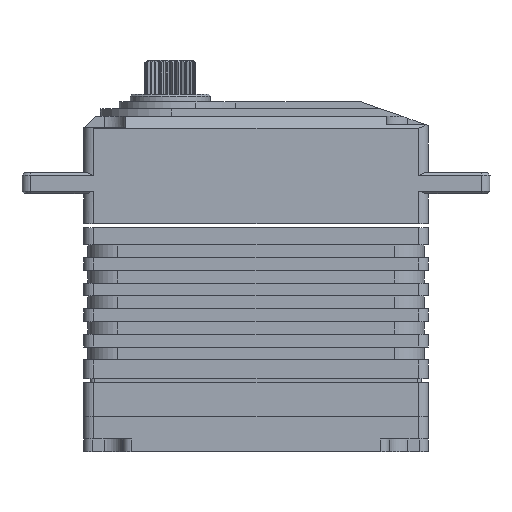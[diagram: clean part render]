
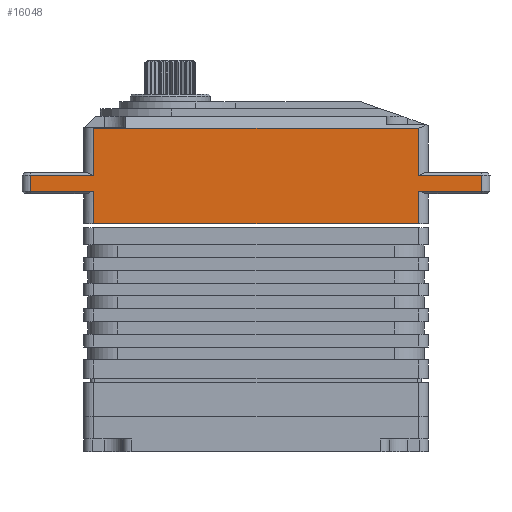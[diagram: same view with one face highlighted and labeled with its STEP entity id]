
A CAD part, front view. The second image highlights one B-rep face of the part: STEP entity #16048.
In plain terms, the highlighted planar face has unit normal (0, -1, 0).
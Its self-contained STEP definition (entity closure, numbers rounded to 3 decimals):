
#139 = CARTESIAN_POINT ( 'NONE',  ( -147.682, -9.427, 16.882 ) ) ;
#424 = EDGE_CURVE ( 'NONE', #5062, #21503, #14286, .T. ) ;
#830 = CARTESIAN_POINT ( 'NONE',  ( -147.682, -9.427, 14.982 ) ) ;
#1002 = EDGE_CURVE ( 'NONE', #6591, #12599, #20674, .T. ) ;
#1155 = VERTEX_POINT ( 'NONE', #7653 ) ;
#1386 = ORIENTED_EDGE ( 'NONE', *, *, #6347, .T. ) ;
#1500 = VECTOR ( 'NONE', #22816, 1000. ) ;
#1569 = CARTESIAN_POINT ( 'NONE',  ( -140.232, -9.427, 16.882 ) ) ;
#1731 = EDGE_CURVE ( 'NONE', #21138, #19691, #15468, .T. ) ;
#1857 = ORIENTED_EDGE ( 'NONE', *, *, #6783, .T. ) ;
#2400 = VECTOR ( 'NONE', #3767, 1000. ) ;
#2553 = ORIENTED_EDGE ( 'NONE', *, *, #424, .T. ) ;
#2581 = VECTOR ( 'NONE', #14908, 1000. ) ;
#2791 = CARTESIAN_POINT ( 'NONE',  ( -147.682, -9.427, 22.424 ) ) ;
#2828 = LINE ( 'NONE', #14659, #21900 ) ;
#2967 = VECTOR ( 'NONE', #14643, 1000. ) ;
#3150 = EDGE_CURVE ( 'NONE', #12955, #13048, #4487, .T. ) ;
#3175 = ORIENTED_EDGE ( 'NONE', *, *, #10541, .T. ) ;
#3545 = LINE ( 'NONE', #23692, #2967 ) ;
#3697 = CARTESIAN_POINT ( 'NONE',  ( -147.682, -9.427, 16.882 ) ) ;
#3759 = VECTOR ( 'NONE', #12192, 1000. ) ;
#3767 = DIRECTION ( 'NONE',  ( -1., 0., 0. ) ) ;
#3783 = CARTESIAN_POINT ( 'NONE',  ( -147.682, -9.427, 14.982 ) ) ;
#3869 = CARTESIAN_POINT ( 'NONE',  ( -140.232, -9.427, 14.982 ) ) ;
#3932 = ORIENTED_EDGE ( 'NONE', *, *, #23258, .T. ) ;
#4487 = LINE ( 'NONE', #830, #12633 ) ;
#5062 = VERTEX_POINT ( 'NONE', #19342 ) ;
#5710 = VERTEX_POINT ( 'NONE', #14104 ) ;
#5983 = DIRECTION ( 'NONE',  ( 1., 0., 0. ) ) ;
#6167 = ORIENTED_EDGE ( 'NONE', *, *, #1002, .T. ) ;
#6193 = EDGE_CURVE ( 'NONE', #12599, #15752, #8167, .T. ) ;
#6347 = EDGE_CURVE ( 'NONE', #19691, #12955, #19098, .T. ) ;
#6591 = VERTEX_POINT ( 'NONE', #7878 ) ;
#6783 = EDGE_CURVE ( 'NONE', #13048, #5062, #3545, .T. ) ;
#6976 = CARTESIAN_POINT ( 'NONE',  ( -147.682, -9.427, 22.424 ) ) ;
#7295 = ORIENTED_EDGE ( 'NONE', *, *, #22208, .T. ) ;
#7653 = CARTESIAN_POINT ( 'NONE',  ( -102.132, -9.427, 22.424 ) ) ;
#7878 = CARTESIAN_POINT ( 'NONE',  ( -102.132, -9.427, 14.982 ) ) ;
#8167 = LINE ( 'NONE', #13561, #3759 ) ;
#9174 = FACE_OUTER_BOUND ( 'NONE', #11925, .T. ) ;
#9270 = ORIENTED_EDGE ( 'NONE', *, *, #13004, .T. ) ;
#9297 = CARTESIAN_POINT ( 'NONE',  ( -94.682, -9.427, 16.882 ) ) ;
#9342 = CARTESIAN_POINT ( 'NONE',  ( -102.132, -9.427, 22.424 ) ) ;
#9400 = DIRECTION ( 'NONE',  ( -1., 0., 0. ) ) ;
#9695 = DIRECTION ( 'NONE',  ( 1., 0., 0. ) ) ;
#10309 = CARTESIAN_POINT ( 'NONE',  ( -147.682, -9.427, 16.882 ) ) ;
#10541 = EDGE_CURVE ( 'NONE', #19512, #21138, #22342, .T. ) ;
#10592 = CARTESIAN_POINT ( 'NONE',  ( -102.132, -9.427, 11.182 ) ) ;
#11304 = VECTOR ( 'NONE', #23826, 1000. ) ;
#11720 = CARTESIAN_POINT ( 'NONE',  ( -94.682, -9.427, 14.982 ) ) ;
#11925 = EDGE_LOOP ( 'NONE', ( #2553, #3932, #6167, #23647, #9270, #21998, #7295, #3175, #23990, #1386, #20871, #1857 ) ) ;
#12047 = VECTOR ( 'NONE', #20190, 1000. ) ;
#12192 = DIRECTION ( 'NONE',  ( 0., 0., 1. ) ) ;
#12599 = VERTEX_POINT ( 'NONE', #11720 ) ;
#12633 = VECTOR ( 'NONE', #13826, 1000. ) ;
#12955 = VERTEX_POINT ( 'NONE', #3783 ) ;
#13004 = EDGE_CURVE ( 'NONE', #15752, #5710, #13266, .T. ) ;
#13048 = VERTEX_POINT ( 'NONE', #3869 ) ;
#13260 = CARTESIAN_POINT ( 'NONE',  ( -147.682, -9.427, 14.982 ) ) ;
#13266 = LINE ( 'NONE', #139, #17586 ) ;
#13561 = CARTESIAN_POINT ( 'NONE',  ( -94.682, -9.427, 22.424 ) ) ;
#13826 = DIRECTION ( 'NONE',  ( 1., 0., 0. ) ) ;
#14104 = CARTESIAN_POINT ( 'NONE',  ( -102.132, -9.427, 16.882 ) ) ;
#14286 = LINE ( 'NONE', #18996, #16595 ) ;
#14643 = DIRECTION ( 'NONE',  ( 0., 0., -1. ) ) ;
#14659 = CARTESIAN_POINT ( 'NONE',  ( -102.132, -9.427, 22.424 ) ) ;
#14814 = DIRECTION ( 'NONE',  ( 0., 0., 1. ) ) ;
#14827 = CARTESIAN_POINT ( 'NONE',  ( -147.682, -9.427, 22.424 ) ) ;
#14908 = DIRECTION ( 'NONE',  ( 0., 0., -1. ) ) ;
#15468 = LINE ( 'NONE', #3697, #2400 ) ;
#15691 = EDGE_CURVE ( 'NONE', #5710, #1155, #2828, .T. ) ;
#15752 = VERTEX_POINT ( 'NONE', #9297 ) ;
#15757 = CARTESIAN_POINT ( 'NONE',  ( -140.232, -9.427, 22.424 ) ) ;
#15925 = PLANE ( 'NONE',  #17606 ) ;
#16048 = ADVANCED_FACE ( 'NONE', ( #9174 ), #15925, .T. ) ;
#16212 = LINE ( 'NONE', #9342, #11304 ) ;
#16595 = VECTOR ( 'NONE', #5983, 1000. ) ;
#16933 = LINE ( 'NONE', #6976, #12047 ) ;
#17586 = VECTOR ( 'NONE', #9400, 1000. ) ;
#17606 = AXIS2_PLACEMENT_3D ( 'NONE', #2791, #21483, #21250 ) ;
#17785 = VECTOR ( 'NONE', #9695, 1000. ) ;
#18930 = CARTESIAN_POINT ( 'NONE',  ( -140.232, -9.427, 22.424 ) ) ;
#18996 = CARTESIAN_POINT ( 'NONE',  ( -147.682, -9.427, 11.182 ) ) ;
#19098 = LINE ( 'NONE', #14827, #2581 ) ;
#19342 = CARTESIAN_POINT ( 'NONE',  ( -140.232, -9.427, 11.182 ) ) ;
#19512 = VERTEX_POINT ( 'NONE', #18930 ) ;
#19691 = VERTEX_POINT ( 'NONE', #10309 ) ;
#20190 = DIRECTION ( 'NONE',  ( -1., 0., 0. ) ) ;
#20674 = LINE ( 'NONE', #13260, #17785 ) ;
#20871 = ORIENTED_EDGE ( 'NONE', *, *, #3150, .T. ) ;
#21138 = VERTEX_POINT ( 'NONE', #1569 ) ;
#21250 = DIRECTION ( 'NONE',  ( 0., 0., -1. ) ) ;
#21483 = DIRECTION ( 'NONE',  ( 0., -1., 0. ) ) ;
#21503 = VERTEX_POINT ( 'NONE', #10592 ) ;
#21900 = VECTOR ( 'NONE', #14814, 1000. ) ;
#21998 = ORIENTED_EDGE ( 'NONE', *, *, #15691, .T. ) ;
#22208 = EDGE_CURVE ( 'NONE', #1155, #19512, #16933, .T. ) ;
#22342 = LINE ( 'NONE', #15757, #1500 ) ;
#22816 = DIRECTION ( 'NONE',  ( 0., 0., -1. ) ) ;
#23258 = EDGE_CURVE ( 'NONE', #21503, #6591, #16212, .T. ) ;
#23647 = ORIENTED_EDGE ( 'NONE', *, *, #6193, .T. ) ;
#23692 = CARTESIAN_POINT ( 'NONE',  ( -140.232, -9.427, 22.424 ) ) ;
#23826 = DIRECTION ( 'NONE',  ( 0., 0., 1. ) ) ;
#23990 = ORIENTED_EDGE ( 'NONE', *, *, #1731, .T. ) ;
